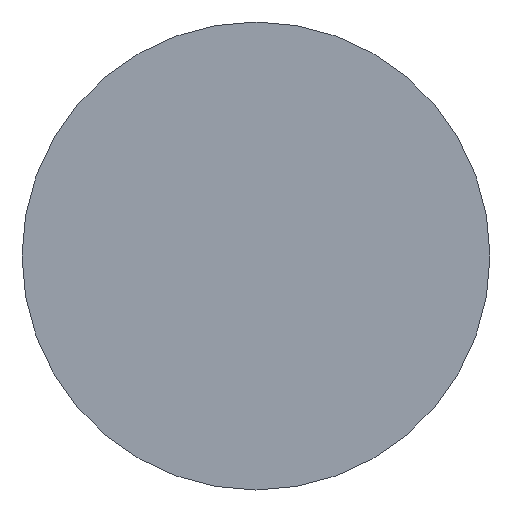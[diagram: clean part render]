
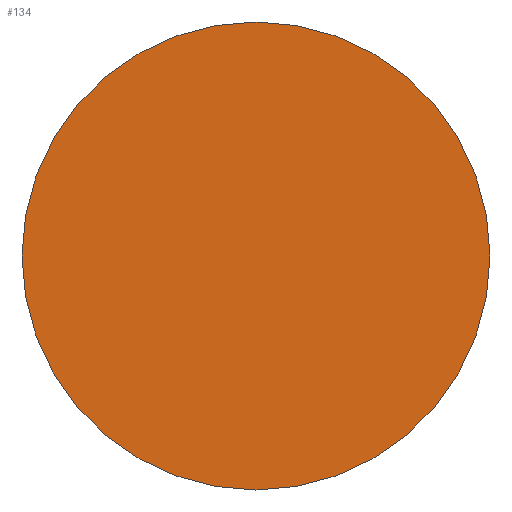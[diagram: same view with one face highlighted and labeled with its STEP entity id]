
A CAD part, left-side view. The second image highlights one B-rep face of the part: STEP entity #134.
In plain terms, the highlighted planar face has unit normal (-1, 0, 0).
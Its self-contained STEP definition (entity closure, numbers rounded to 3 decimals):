
#9 = CARTESIAN_POINT ( 'NONE',  ( -312., 0., 0. ) ) ;
#14 = ORIENTED_EDGE ( 'NONE', *, *, #68, .T. ) ;
#19 = EDGE_LOOP ( 'NONE', ( #27, #14 ) ) ;
#27 = ORIENTED_EDGE ( 'NONE', *, *, #55, .T. ) ;
#39 = CIRCLE ( 'NONE', #58, 5.5 ) ;
#43 = FACE_OUTER_BOUND ( 'NONE', #19, .T. ) ;
#44 = CIRCLE ( 'NONE', #57, 5.5 ) ;
#55 = EDGE_CURVE ( 'NONE', #123, #75, #39, .T. ) ;
#57 = AXIS2_PLACEMENT_3D ( 'NONE', #128, #77, #76 ) ;
#58 = AXIS2_PLACEMENT_3D ( 'NONE', #9, #132, #131 ) ;
#65 = AXIS2_PLACEMENT_3D ( 'NONE', #84, #97, #96 ) ;
#68 = EDGE_CURVE ( 'NONE', #75, #123, #44, .T. ) ;
#75 = VERTEX_POINT ( 'NONE', #78 ) ;
#76 = DIRECTION ( 'NONE',  ( 0., 0., 1. ) ) ;
#77 = DIRECTION ( 'NONE',  ( -1., 0., 0. ) ) ;
#78 = CARTESIAN_POINT ( 'NONE',  ( -312., 0., -5.5 ) ) ;
#84 = CARTESIAN_POINT ( 'NONE',  ( -312., 0., 0. ) ) ;
#90 = CARTESIAN_POINT ( 'NONE',  ( -312., 0., 5.5 ) ) ;
#93 = PLANE ( 'NONE',  #65 ) ;
#96 = DIRECTION ( 'NONE',  ( 0., 0., 1. ) ) ;
#97 = DIRECTION ( 'NONE',  ( -1., 0., 0. ) ) ;
#123 = VERTEX_POINT ( 'NONE', #90 ) ;
#128 = CARTESIAN_POINT ( 'NONE',  ( -312., 0., 0. ) ) ;
#131 = DIRECTION ( 'NONE',  ( 0., 0., 1. ) ) ;
#132 = DIRECTION ( 'NONE',  ( -1., 0., 0. ) ) ;
#134 = ADVANCED_FACE ( 'NONE', ( #43 ), #93, .T. ) ;
